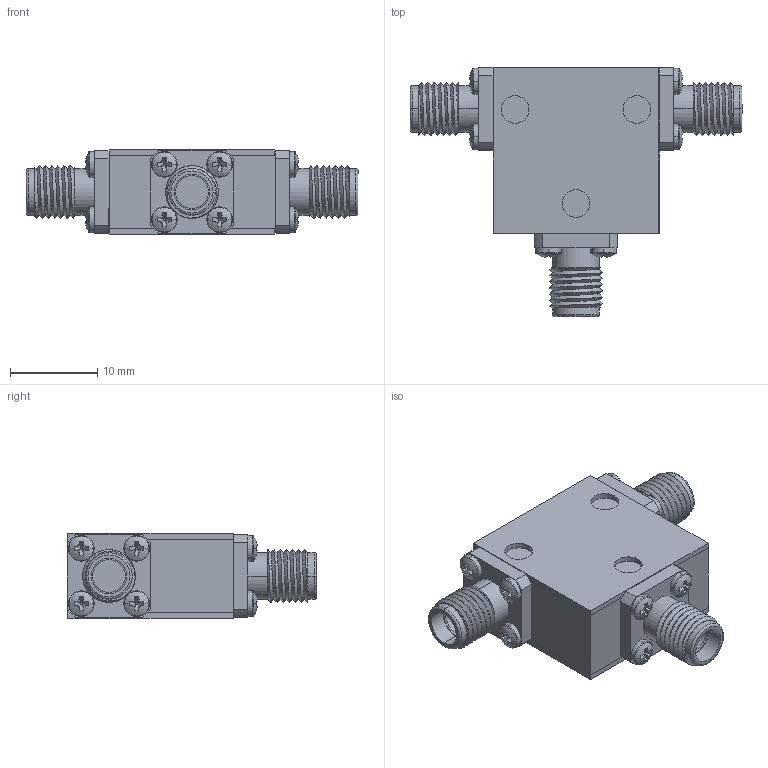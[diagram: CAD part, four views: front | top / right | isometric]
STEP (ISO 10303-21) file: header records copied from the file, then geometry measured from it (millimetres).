
FILE_DESCRIPTION (( 'STEP AP214' ), '1' );
FILE_NAME ('Package 10 Circ FFF.step', '2021-12-01T20:56:45', ( '' ), ( '' ), 'SwSTEP 2.0', 'SolidWorks 2016', '' );
FILE_SCHEMA (( 'AUTOMOTIVE_DESIGN' ));
Length unit declared in the file: inch
Products named in the file (5): Package Size 10; Delta SMA-Female 0.375 flange Threaded; Package 10 Circ FFF; pan cross head_ai_CR-PHMS 0.06-80x0.125x0.125-N; Package 10
Assembly tree (17 placements, depth 2):
  Package 10 Circ FFF
    Package Size 10
    Package 10
    Delta SMA-Female 0.375 flange Threaded  x3
    pan cross head_ai_CR-PHMS 0.06-80x0.125x0.125-N  x12
Bounding box: 38.1 x 28.57 x 9.65 mm (x, y, z)
Volume: 4202.6 mm3; surface area: 5165.6 mm2
Topology: 17 solids, 17 shells, 421 faces, 957 edges, 591 vertices
Faces by surface type: plane 232, cylinder 126, torus 30, sphere 24, bspline 9
Entity records: 3729 total; most frequent: CARTESIAN_POINT 1205, DIRECTION 527, ORIENTED_EDGE 434, EDGE_CURVE 217, AXIS2_PLACEMENT_3D 211, VERTEX_POINT 139, EDGE_LOOP 116, LINE 105
